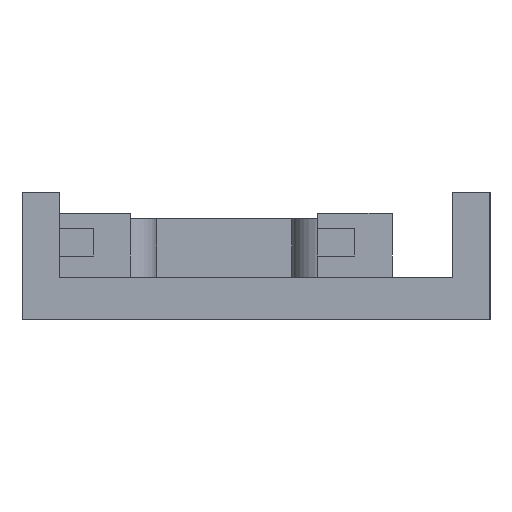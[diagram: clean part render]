
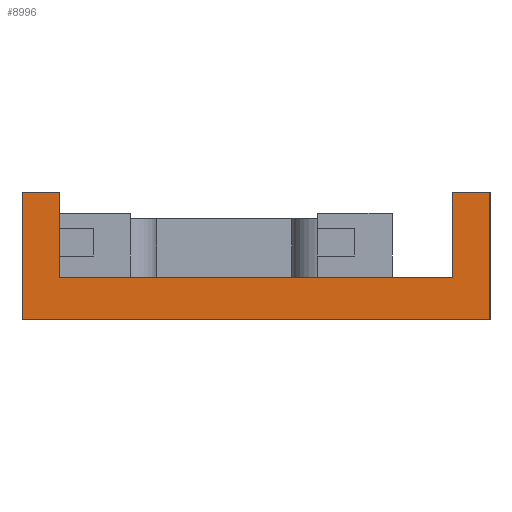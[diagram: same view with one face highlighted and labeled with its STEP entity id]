
A CAD part, left-side view. The second image highlights one B-rep face of the part: STEP entity #8996.
In plain terms, the highlighted planar face has unit normal (-1, 0, 0).
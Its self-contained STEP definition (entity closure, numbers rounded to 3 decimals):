
#22 = VERTEX_POINT('',#23);
#23 = CARTESIAN_POINT('',(-51.5,-1.1,0.));
#32 = PLANE('',#33);
#33 = AXIS2_PLACEMENT_3D('',#34,#35,#36);
#34 = CARTESIAN_POINT('',(-36.613,-1.1,0.));
#35 = DIRECTION('',(-0.,1.,0.));
#36 = DIRECTION('',(0.,0.,1.));
#44 = PLANE('',#45);
#45 = AXIS2_PLACEMENT_3D('',#46,#47,#48);
#46 = CARTESIAN_POINT('',(-36.613,-1.1,0.));
#47 = DIRECTION('',(0.,0.,1.));
#48 = DIRECTION('',(1.,0.,-0.));
#56 = EDGE_CURVE('',#57,#22,#59,.T.);
#57 = VERTEX_POINT('',#58);
#58 = CARTESIAN_POINT('',(-51.5,-1.1,12.));
#59 = SURFACE_CURVE('',#60,(#64,#71),.PCURVE_S1.);
#60 = LINE('',#61,#62);
#61 = CARTESIAN_POINT('',(-51.5,-1.1,12.));
#62 = VECTOR('',#63,1.);
#63 = DIRECTION('',(0.,0.,-1.));
#64 = PCURVE('',#32,#65);
#65 = DEFINITIONAL_REPRESENTATION('',(#66),#70);
#66 = LINE('',#67,#68);
#67 = CARTESIAN_POINT('',(12.,-14.888));
#68 = VECTOR('',#69,1.);
#69 = DIRECTION('',(-1.,0.));
#70 = ( GEOMETRIC_REPRESENTATION_CONTEXT(2) 
PARAMETRIC_REPRESENTATION_CONTEXT() REPRESENTATION_CONTEXT('2D SPACE',''
  ) );
#71 = PCURVE('',#72,#77);
#72 = PLANE('',#73);
#73 = AXIS2_PLACEMENT_3D('',#74,#75,#76);
#74 = CARTESIAN_POINT('',(-51.5,-1.1,0.));
#75 = DIRECTION('',(1.,0.,-0.));
#76 = DIRECTION('',(0.,0.,1.));
#77 = DEFINITIONAL_REPRESENTATION('',(#78),#82);
#78 = LINE('',#79,#80);
#79 = CARTESIAN_POINT('',(12.,0.));
#80 = VECTOR('',#81,1.);
#81 = DIRECTION('',(-1.,0.));
#82 = ( GEOMETRIC_REPRESENTATION_CONTEXT(2) 
PARAMETRIC_REPRESENTATION_CONTEXT() REPRESENTATION_CONTEXT('2D SPACE',''
  ) );
#100 = PLANE('',#101);
#101 = AXIS2_PLACEMENT_3D('',#102,#103,#104);
#102 = CARTESIAN_POINT('',(-36.613,-1.1,12.));
#103 = DIRECTION('',(0.,0.,1.));
#104 = DIRECTION('',(1.,0.,-0.));
#156 = PLANE('',#157);
#157 = AXIS2_PLACEMENT_3D('',#158,#159,#160);
#158 = CARTESIAN_POINT('',(-51.5,-1.1,4.));
#159 = DIRECTION('',(0.,0.,1.));
#160 = DIRECTION('',(1.,0.,-0.));
#198 = VERTEX_POINT('',#199);
#199 = CARTESIAN_POINT('',(-51.5,42.9,0.));
#215 = PLANE('',#216);
#216 = AXIS2_PLACEMENT_3D('',#217,#218,#219);
#217 = CARTESIAN_POINT('',(-36.613,42.9,0.));
#218 = DIRECTION('',(-0.,1.,0.));
#219 = DIRECTION('',(0.,0.,1.));
#227 = EDGE_CURVE('',#22,#198,#228,.T.);
#228 = SURFACE_CURVE('',#229,(#233,#240),.PCURVE_S1.);
#229 = LINE('',#230,#231);
#230 = CARTESIAN_POINT('',(-51.5,-1.1,0.));
#231 = VECTOR('',#232,1.);
#232 = DIRECTION('',(-0.,1.,0.));
#233 = PCURVE('',#44,#234);
#234 = DEFINITIONAL_REPRESENTATION('',(#235),#239);
#235 = LINE('',#236,#237);
#236 = CARTESIAN_POINT('',(-14.888,0.));
#237 = VECTOR('',#238,1.);
#238 = DIRECTION('',(0.,1.));
#239 = ( GEOMETRIC_REPRESENTATION_CONTEXT(2) 
PARAMETRIC_REPRESENTATION_CONTEXT() REPRESENTATION_CONTEXT('2D SPACE',''
  ) );
#240 = PCURVE('',#72,#241);
#241 = DEFINITIONAL_REPRESENTATION('',(#242),#246);
#242 = LINE('',#243,#244);
#243 = CARTESIAN_POINT('',(0.,0.));
#244 = VECTOR('',#245,1.);
#245 = DIRECTION('',(0.,-1.));
#246 = ( GEOMETRIC_REPRESENTATION_CONTEXT(2) 
PARAMETRIC_REPRESENTATION_CONTEXT() REPRESENTATION_CONTEXT('2D SPACE',''
  ) );
#8996 = ADVANCED_FACE('',(#8997),#72,.F.);
#8997 = FACE_BOUND('',#8998,.F.);
#8998 = EDGE_LOOP('',(#8999,#9000,#9023,#9051,#9079,#9102,#9130,#9151));
#8999 = ORIENTED_EDGE('',*,*,#227,.T.);
#9000 = ORIENTED_EDGE('',*,*,#9001,.T.);
#9001 = EDGE_CURVE('',#198,#9002,#9004,.T.);
#9002 = VERTEX_POINT('',#9003);
#9003 = CARTESIAN_POINT('',(-51.5,42.9,12.));
#9004 = SURFACE_CURVE('',#9005,(#9009,#9016),.PCURVE_S1.);
#9005 = LINE('',#9006,#9007);
#9006 = CARTESIAN_POINT('',(-51.5,42.9,0.));
#9007 = VECTOR('',#9008,1.);
#9008 = DIRECTION('',(0.,0.,1.));
#9009 = PCURVE('',#72,#9010);
#9010 = DEFINITIONAL_REPRESENTATION('',(#9011),#9015);
#9011 = LINE('',#9012,#9013);
#9012 = CARTESIAN_POINT('',(0.,-44.));
#9013 = VECTOR('',#9014,1.);
#9014 = DIRECTION('',(1.,0.));
#9015 = ( GEOMETRIC_REPRESENTATION_CONTEXT(2) 
PARAMETRIC_REPRESENTATION_CONTEXT() REPRESENTATION_CONTEXT('2D SPACE',''
  ) );
#9016 = PCURVE('',#215,#9017);
#9017 = DEFINITIONAL_REPRESENTATION('',(#9018),#9022);
#9018 = LINE('',#9019,#9020);
#9019 = CARTESIAN_POINT('',(0.,-14.888));
#9020 = VECTOR('',#9021,1.);
#9021 = DIRECTION('',(1.,0.));
#9022 = ( GEOMETRIC_REPRESENTATION_CONTEXT(2) 
PARAMETRIC_REPRESENTATION_CONTEXT() REPRESENTATION_CONTEXT('2D SPACE',''
  ) );
#9023 = ORIENTED_EDGE('',*,*,#9024,.F.);
#9024 = EDGE_CURVE('',#9025,#9002,#9027,.T.);
#9025 = VERTEX_POINT('',#9026);
#9026 = CARTESIAN_POINT('',(-51.5,39.4,12.));
#9027 = SURFACE_CURVE('',#9028,(#9032,#9039),.PCURVE_S1.);
#9028 = LINE('',#9029,#9030);
#9029 = CARTESIAN_POINT('',(-51.5,39.4,12.));
#9030 = VECTOR('',#9031,1.);
#9031 = DIRECTION('',(-0.,1.,0.));
#9032 = PCURVE('',#72,#9033);
#9033 = DEFINITIONAL_REPRESENTATION('',(#9034),#9038);
#9034 = LINE('',#9035,#9036);
#9035 = CARTESIAN_POINT('',(12.,-40.5));
#9036 = VECTOR('',#9037,1.);
#9037 = DIRECTION('',(0.,-1.));
#9038 = ( GEOMETRIC_REPRESENTATION_CONTEXT(2) 
PARAMETRIC_REPRESENTATION_CONTEXT() REPRESENTATION_CONTEXT('2D SPACE',''
  ) );
#9039 = PCURVE('',#9040,#9045);
#9040 = PLANE('',#9041);
#9041 = AXIS2_PLACEMENT_3D('',#9042,#9043,#9044);
#9042 = CARTESIAN_POINT('',(-36.613,39.4,12.));
#9043 = DIRECTION('',(0.,0.,1.));
#9044 = DIRECTION('',(1.,0.,-0.));
#9045 = DEFINITIONAL_REPRESENTATION('',(#9046),#9050);
#9046 = LINE('',#9047,#9048);
#9047 = CARTESIAN_POINT('',(-14.888,0.));
#9048 = VECTOR('',#9049,1.);
#9049 = DIRECTION('',(0.,1.));
#9050 = ( GEOMETRIC_REPRESENTATION_CONTEXT(2) 
PARAMETRIC_REPRESENTATION_CONTEXT() REPRESENTATION_CONTEXT('2D SPACE',''
  ) );
#9051 = ORIENTED_EDGE('',*,*,#9052,.F.);
#9052 = EDGE_CURVE('',#9053,#9025,#9055,.T.);
#9053 = VERTEX_POINT('',#9054);
#9054 = CARTESIAN_POINT('',(-51.5,39.4,4.));
#9055 = SURFACE_CURVE('',#9056,(#9060,#9067),.PCURVE_S1.);
#9056 = LINE('',#9057,#9058);
#9057 = CARTESIAN_POINT('',(-51.5,39.4,4.));
#9058 = VECTOR('',#9059,1.);
#9059 = DIRECTION('',(0.,0.,1.));
#9060 = PCURVE('',#72,#9061);
#9061 = DEFINITIONAL_REPRESENTATION('',(#9062),#9066);
#9062 = LINE('',#9063,#9064);
#9063 = CARTESIAN_POINT('',(4.,-40.5));
#9064 = VECTOR('',#9065,1.);
#9065 = DIRECTION('',(1.,0.));
#9066 = ( GEOMETRIC_REPRESENTATION_CONTEXT(2) 
PARAMETRIC_REPRESENTATION_CONTEXT() REPRESENTATION_CONTEXT('2D SPACE',''
  ) );
#9067 = PCURVE('',#9068,#9073);
#9068 = PLANE('',#9069);
#9069 = AXIS2_PLACEMENT_3D('',#9070,#9071,#9072);
#9070 = CARTESIAN_POINT('',(-51.5,39.4,4.));
#9071 = DIRECTION('',(-0.,1.,0.));
#9072 = DIRECTION('',(0.,0.,1.));
#9073 = DEFINITIONAL_REPRESENTATION('',(#9074),#9078);
#9074 = LINE('',#9075,#9076);
#9075 = CARTESIAN_POINT('',(0.,0.));
#9076 = VECTOR('',#9077,1.);
#9077 = DIRECTION('',(1.,0.));
#9078 = ( GEOMETRIC_REPRESENTATION_CONTEXT(2) 
PARAMETRIC_REPRESENTATION_CONTEXT() REPRESENTATION_CONTEXT('2D SPACE',''
  ) );
#9079 = ORIENTED_EDGE('',*,*,#9080,.F.);
#9080 = EDGE_CURVE('',#9081,#9053,#9083,.T.);
#9081 = VERTEX_POINT('',#9082);
#9082 = CARTESIAN_POINT('',(-51.5,2.4,4.));
#9083 = SURFACE_CURVE('',#9084,(#9088,#9095),.PCURVE_S1.);
#9084 = LINE('',#9085,#9086);
#9085 = CARTESIAN_POINT('',(-51.5,-1.1,4.));
#9086 = VECTOR('',#9087,1.);
#9087 = DIRECTION('',(-0.,1.,0.));
#9088 = PCURVE('',#72,#9089);
#9089 = DEFINITIONAL_REPRESENTATION('',(#9090),#9094);
#9090 = LINE('',#9091,#9092);
#9091 = CARTESIAN_POINT('',(4.,0.));
#9092 = VECTOR('',#9093,1.);
#9093 = DIRECTION('',(0.,-1.));
#9094 = ( GEOMETRIC_REPRESENTATION_CONTEXT(2) 
PARAMETRIC_REPRESENTATION_CONTEXT() REPRESENTATION_CONTEXT('2D SPACE',''
  ) );
#9095 = PCURVE('',#156,#9096);
#9096 = DEFINITIONAL_REPRESENTATION('',(#9097),#9101);
#9097 = LINE('',#9098,#9099);
#9098 = CARTESIAN_POINT('',(0.,0.));
#9099 = VECTOR('',#9100,1.);
#9100 = DIRECTION('',(0.,1.));
#9101 = ( GEOMETRIC_REPRESENTATION_CONTEXT(2) 
PARAMETRIC_REPRESENTATION_CONTEXT() REPRESENTATION_CONTEXT('2D SPACE',''
  ) );
#9102 = ORIENTED_EDGE('',*,*,#9103,.T.);
#9103 = EDGE_CURVE('',#9081,#9104,#9106,.T.);
#9104 = VERTEX_POINT('',#9105);
#9105 = CARTESIAN_POINT('',(-51.5,2.4,12.));
#9106 = SURFACE_CURVE('',#9107,(#9111,#9118),.PCURVE_S1.);
#9107 = LINE('',#9108,#9109);
#9108 = CARTESIAN_POINT('',(-51.5,2.4,4.));
#9109 = VECTOR('',#9110,1.);
#9110 = DIRECTION('',(0.,0.,1.));
#9111 = PCURVE('',#72,#9112);
#9112 = DEFINITIONAL_REPRESENTATION('',(#9113),#9117);
#9113 = LINE('',#9114,#9115);
#9114 = CARTESIAN_POINT('',(4.,-3.5));
#9115 = VECTOR('',#9116,1.);
#9116 = DIRECTION('',(1.,0.));
#9117 = ( GEOMETRIC_REPRESENTATION_CONTEXT(2) 
PARAMETRIC_REPRESENTATION_CONTEXT() REPRESENTATION_CONTEXT('2D SPACE',''
  ) );
#9118 = PCURVE('',#9119,#9124);
#9119 = PLANE('',#9120);
#9120 = AXIS2_PLACEMENT_3D('',#9121,#9122,#9123);
#9121 = CARTESIAN_POINT('',(-36.613,2.4,4.));
#9122 = DIRECTION('',(-0.,1.,0.));
#9123 = DIRECTION('',(0.,0.,1.));
#9124 = DEFINITIONAL_REPRESENTATION('',(#9125),#9129);
#9125 = LINE('',#9126,#9127);
#9126 = CARTESIAN_POINT('',(0.,-14.888));
#9127 = VECTOR('',#9128,1.);
#9128 = DIRECTION('',(1.,0.));
#9129 = ( GEOMETRIC_REPRESENTATION_CONTEXT(2) 
PARAMETRIC_REPRESENTATION_CONTEXT() REPRESENTATION_CONTEXT('2D SPACE',''
  ) );
#9130 = ORIENTED_EDGE('',*,*,#9131,.F.);
#9131 = EDGE_CURVE('',#57,#9104,#9132,.T.);
#9132 = SURFACE_CURVE('',#9133,(#9137,#9144),.PCURVE_S1.);
#9133 = LINE('',#9134,#9135);
#9134 = CARTESIAN_POINT('',(-51.5,-1.1,12.));
#9135 = VECTOR('',#9136,1.);
#9136 = DIRECTION('',(-0.,1.,0.));
#9137 = PCURVE('',#72,#9138);
#9138 = DEFINITIONAL_REPRESENTATION('',(#9139),#9143);
#9139 = LINE('',#9140,#9141);
#9140 = CARTESIAN_POINT('',(12.,0.));
#9141 = VECTOR('',#9142,1.);
#9142 = DIRECTION('',(0.,-1.));
#9143 = ( GEOMETRIC_REPRESENTATION_CONTEXT(2) 
PARAMETRIC_REPRESENTATION_CONTEXT() REPRESENTATION_CONTEXT('2D SPACE',''
  ) );
#9144 = PCURVE('',#100,#9145);
#9145 = DEFINITIONAL_REPRESENTATION('',(#9146),#9150);
#9146 = LINE('',#9147,#9148);
#9147 = CARTESIAN_POINT('',(-14.888,0.));
#9148 = VECTOR('',#9149,1.);
#9149 = DIRECTION('',(0.,1.));
#9150 = ( GEOMETRIC_REPRESENTATION_CONTEXT(2) 
PARAMETRIC_REPRESENTATION_CONTEXT() REPRESENTATION_CONTEXT('2D SPACE',''
  ) );
#9151 = ORIENTED_EDGE('',*,*,#56,.T.);
